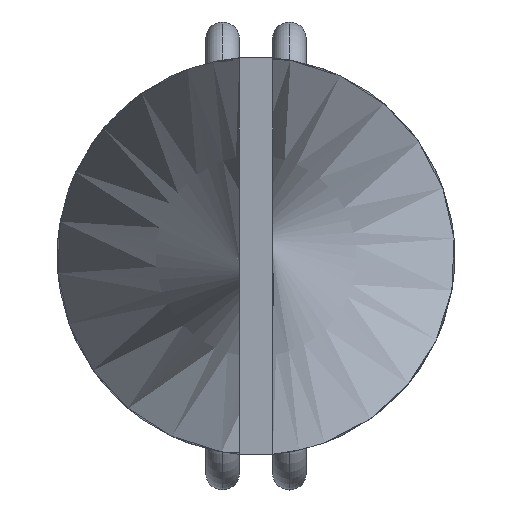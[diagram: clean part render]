
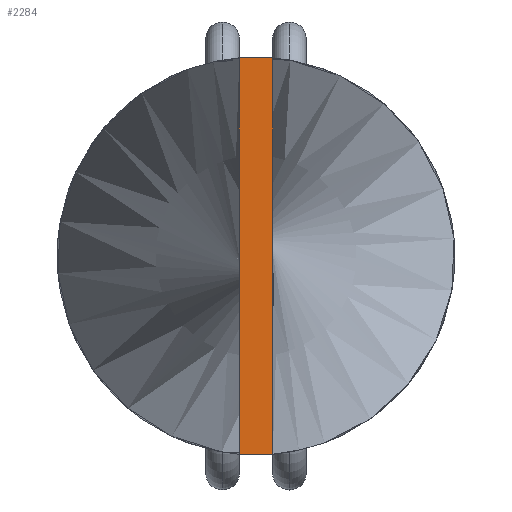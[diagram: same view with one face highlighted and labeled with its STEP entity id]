
A CAD part, left-side view. The second image highlights one B-rep face of the part: STEP entity #2284.
In plain terms, the highlighted planar face has unit normal (-1, 0, 0).
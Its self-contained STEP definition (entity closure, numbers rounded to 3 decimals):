
#199 = ORIENTED_EDGE ( 'NONE', *, *, #2993, .T. ) ;
#411 = EDGE_CURVE ( 'NONE', #1922, #2617, #3074, .T. ) ;
#475 = CARTESIAN_POINT ( 'NONE',  ( -100., -0.5, 5.925 ) ) ;
#479 = VECTOR ( 'NONE', #707, 1000. ) ;
#707 = DIRECTION ( 'NONE',  ( 0., 1., 0. ) ) ;
#733 = FACE_OUTER_BOUND ( 'NONE', #2989, .T. ) ;
#782 = DIRECTION ( 'NONE',  ( 0., 0., -1. ) ) ;
#838 = DIRECTION ( 'NONE',  ( 0., 0., 1. ) ) ;
#1013 = EDGE_CURVE ( 'NONE', #2617, #1755, #2813, .T. ) ;
#1019 = CARTESIAN_POINT ( 'NONE',  ( -100., 0., 0. ) ) ;
#1082 = EDGE_CURVE ( 'NONE', #1755, #1308, #2421, .T. ) ;
#1200 = PLANE ( 'NONE',  #1410 ) ;
#1308 = VERTEX_POINT ( 'NONE', #2510 ) ;
#1366 = VECTOR ( 'NONE', #2237, 1000. ) ;
#1382 = CARTESIAN_POINT ( 'NONE',  ( -100., -0.5, -5.925 ) ) ;
#1410 = AXIS2_PLACEMENT_3D ( 'NONE', #1019, #1779, #838 ) ;
#1755 = VERTEX_POINT ( 'NONE', #2784 ) ;
#1779 = DIRECTION ( 'NONE',  ( -1., 0., 0. ) ) ;
#1872 = ORIENTED_EDGE ( 'NONE', *, *, #411, .T. ) ;
#1904 = CARTESIAN_POINT ( 'NONE',  ( -100., -0.5, 5.925 ) ) ;
#1922 = VERTEX_POINT ( 'NONE', #2971 ) ;
#2101 = ORIENTED_EDGE ( 'NONE', *, *, #1082, .T. ) ;
#2127 = VECTOR ( 'NONE', #782, 1000. ) ;
#2237 = DIRECTION ( 'NONE',  ( 0., -1., 0. ) ) ;
#2284 = ADVANCED_FACE ( 'NONE', ( #733 ), #1200, .T. ) ;
#2421 = LINE ( 'NONE', #2810, #2127 ) ;
#2510 = CARTESIAN_POINT ( 'NONE',  ( -100., 0.5, -5.925 ) ) ;
#2517 = DIRECTION ( 'NONE',  ( 0., 0., 1. ) ) ;
#2617 = VERTEX_POINT ( 'NONE', #475 ) ;
#2767 = CARTESIAN_POINT ( 'NONE',  ( -100., 0.5, -5.925 ) ) ;
#2784 = CARTESIAN_POINT ( 'NONE',  ( -100., 0.5, 5.925 ) ) ;
#2810 = CARTESIAN_POINT ( 'NONE',  ( -100., 0.5, 5.925 ) ) ;
#2813 = LINE ( 'NONE', #1904, #479 ) ;
#2955 = LINE ( 'NONE', #2767, #1366 ) ;
#2971 = CARTESIAN_POINT ( 'NONE',  ( -100., -0.5, -5.925 ) ) ;
#2989 = EDGE_LOOP ( 'NONE', ( #199, #1872, #3149, #2101 ) ) ;
#2993 = EDGE_CURVE ( 'NONE', #1308, #1922, #2955, .T. ) ;
#3074 = LINE ( 'NONE', #1382, #3167 ) ;
#3149 = ORIENTED_EDGE ( 'NONE', *, *, #1013, .T. ) ;
#3167 = VECTOR ( 'NONE', #2517, 1000. ) ;
